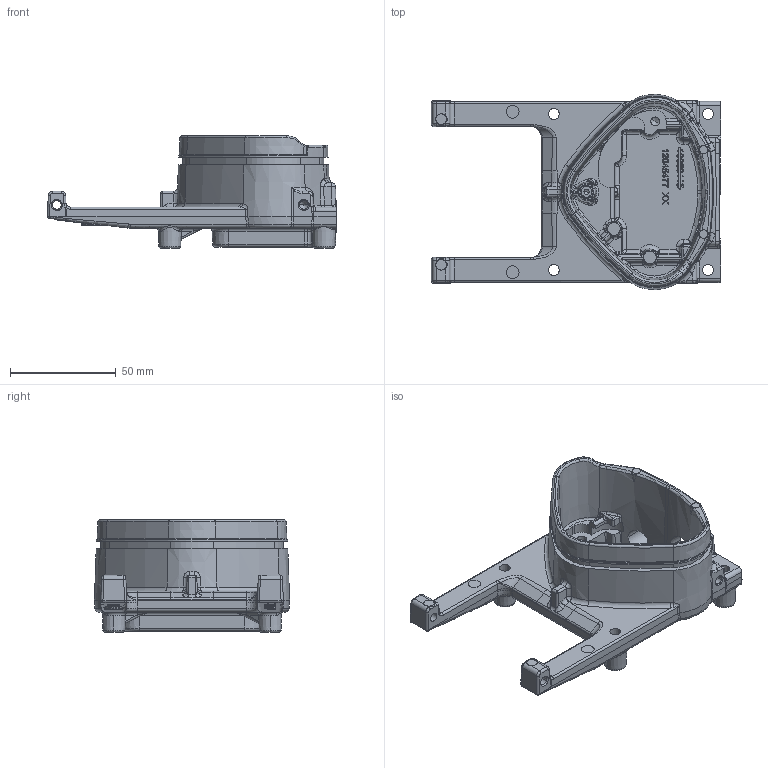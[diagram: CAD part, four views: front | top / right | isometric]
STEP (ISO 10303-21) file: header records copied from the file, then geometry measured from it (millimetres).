
FILE_DESCRIPTION(('CATIA V5 STEP 214','CAx-IF Rec.Pracs.--- Model Styling and Organization---1.4--- 2014-01-23'),'2;1');
FILE_NAME('C:\Temp\ddxv7\434066\12045477-1-0001A.stp','2020-02-11T08:00:23+00:00',('Leopold Kostal'),('Kostal GmbH'),'CATIA Version 5-6 Release 2016 SP6 HF10','CATIA V5 STEP AP214','none');
FILE_SCHEMA(('AUTOMOTIVE_DESIGN { 1 0 10303 214 1 1 1 1 }'));
Length unit declared in the file: millimetre
Products named in the file (1): 12045477-1-0001A
Bounding box: 137 x 92.46 x 53.3 mm (x, y, z)
Volume: 116312.4 mm3; surface area: 46851.6 mm2
Topology: 1 solids, 1 shells, 1736 faces, 4487 edges, 2737 vertices
Faces by surface type: plane 521, bspline 338, extrusion 314, cylinder 272, torus 155, cone 110, sphere 26
Entity records: 73622 total; most frequent: CARTESIAN_POINT 38014, ORIENTED_EDGE 8840, DIRECTION 4468, EDGE_CURVE 4420, VERTEX_POINT 2737, VECTOR 2065, B_SPLINE_CURVE_WITH_KNOTS 2042, EDGE_LOOP 1803
